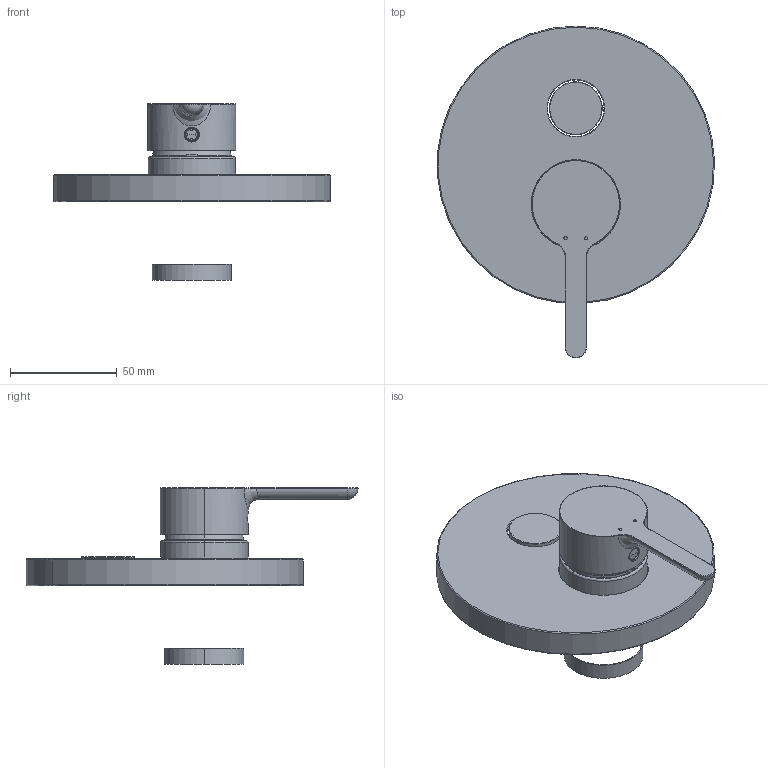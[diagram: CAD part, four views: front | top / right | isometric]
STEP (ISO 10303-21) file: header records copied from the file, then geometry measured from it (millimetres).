
FILE_DESCRIPTION((''),'2;1');
FILE_NAME('F3119E2_ASM','2023-03-22T10:59:49',('samuelef'),(''),'CREO PARAMETRIC BY PTC INC, 2021184','CREO PARAMETRIC BY PTC INC, 2021184','');
FILE_SCHEMA(('CONFIG_CONTROL_DESIGN'));
Length unit declared in the file: millimetre
Products named in the file (9): 1751CRO_AF1; 1747; AKARTSN35N_AF1_ASM; 1832ZCRO_AF0; 5676CRO_L; 1731ZCRO_TL; 7384_BOTTONE_CROMATO_D_5_5; 2034_29INS_ASM; F3119E2_ASM
Assembly tree (8 placements, depth 3):
  F3119E2_ASM
    AKARTSN35N_AF1_ASM
      1751CRO_AF1
      1747
    1832ZCRO_AF0
    5676CRO_L
    1731ZCRO_TL
    2034_29INS_ASM
      7384_BOTTONE_CROMATO_D_5_5
Bounding box: 129.75 x 155.5 x 82.8 mm (x, y, z)
Volume: 69328.1 mm3; surface area: 63119.1 mm2
Topology: 6 solids, 9 shells, 944 faces, 2351 edges, 1476 vertices
Faces by surface type: plane 365, extrusion 191, cylinder 172, torus 95, bspline 49, cone 37, sphere 35
Entity records: 31619 total; most frequent: CARTESIAN_POINT 9805, ORIENTED_EDGE 4684, DIRECTION 4003, EDGE_CURVE 2348, VERTEX_POINT 1476, VECTOR 1395, AXIS2_PLACEMENT_3D 1304, LINE 1204
